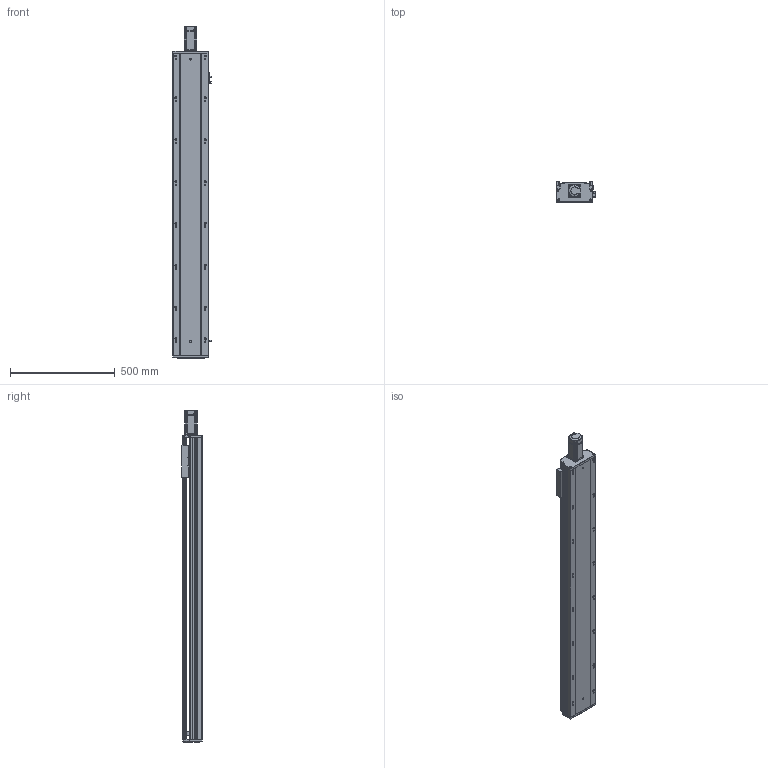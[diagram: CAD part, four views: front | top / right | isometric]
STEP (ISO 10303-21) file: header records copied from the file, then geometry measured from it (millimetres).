
FILE_DESCRIPTION (( 'STEP AP203' ), '1' );
FILE_NAME ('RY170Q-L2020-400-MK.SLDASM_1150.step', '2021-05-31T02:03:20', ( '盈信电脑' ), ( '东莞市道滘镇水果街19号' ), 'SwSTEP 2.0', 'SolidWorks 2016', '' );
FILE_SCHEMA (( 'CONFIG_CONTROL_DESIGN' ));
Length unit declared in the file: millimetre
Products named in the file (12): RY170Q臏賑輸20佪裝蹟譫(FK15); 覜茼ん672; 滅袉蝶18-15; 滅袉蝶18-10; 15; 侂狟400W侜督萇儂; RY170綴裔啣; RY170Q-400倰第菁釱-MK_1200; RY170Q-400倰第裔啣-MK_1200; RY170外置感应片(200共用）; RY170ヶ醱裔啣; RY170Q-L2020-400-MK.SLDASM_1150
Assembly tree (14 placements, depth 3):
  RY170Q-L2020-400-MK.SLDASM_1150
    RY170Q-400倰第菁釱-MK_1200
    RY170Q-400倰第裔啣-MK_1200
    RY170Q臏賑輸20佪裝蹟譫(FK15)
    侂狟400W侜督萇儂
      15
    RY170綴裔啣
    覜茼ん672  x3
    RY170外置感应片(200共用）
    RY170ヶ醱裔啣
    滅袉蝶18-15  x2
    滅袉蝶18-10
Bounding box: 183.7 x 97 x 1586.5 mm (x, y, z)
Volume: 7044602.8 mm3; surface area: 2339121.2 mm2
Topology: 13 solids, 13 shells, 2260 faces, 6475 edges, 4161 vertices
Faces by surface type: plane 1185, cylinder 841, cone 205, bspline 29
Entity records: 71526 total; most frequent: CARTESIAN_POINT 15917, ORIENTED_EDGE 11642, DIRECTION 11028, EDGE_CURVE 5821, VERTEX_POINT 3829, LINE 3704, VECTOR 3704, AXIS2_PLACEMENT_3D 3662
